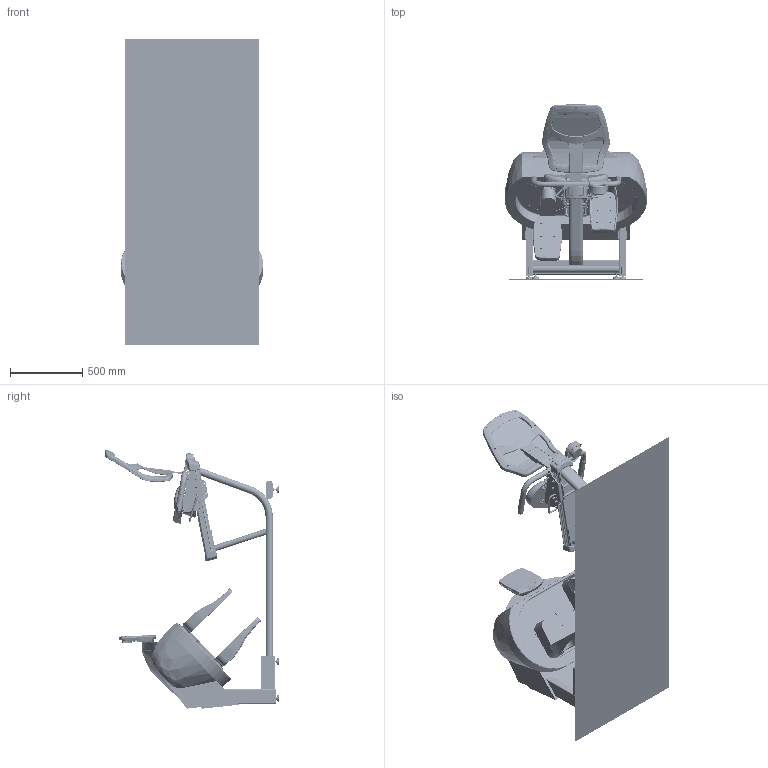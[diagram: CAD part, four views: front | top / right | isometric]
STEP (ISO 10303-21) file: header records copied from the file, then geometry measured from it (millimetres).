
FILE_DESCRIPTION (( 'STEP AP214' ), '1' );
FILE_NAME ('MR04_RECUMBANT_03-06-2015_A.STEP', '2015-03-06T13:50:23', ( 'Andrew_Grove' ), ( 'Microsoft' ), 'SwSTEP 2.0', 'SolidWorks 2014', '' );
FILE_SCHEMA (( 'AUTOMOTIVE_DESIGN' ));
Length unit declared in the file: millimetre
Products named in the file (26): RING_GEAR_SIMPLIFIED_01; R_&_T_SHROUD_01_RECUMBANT_01; Pedal Part_TILTED_01_07-28-2014_CHANGES; MR01-???___; 14mm Nut___; FLOOR_01; M25 x 1 nut with set screws-Wide___; PROTEUS_SEAT_01_VERSION_03; Crank 9-30-2014 Modified for 8mm Bolts_3 o clock (70-50-05) Rev-1; MR04_CONVERTABLE_FRAME_ASSEMBLY_01; MR04_CONVERTABLE_FRAME_01_VERSION_04; SIMPLIFIED_JACK_SHAFT_01; GENERATOR_ASSEMBLY_02; MR04_RECUMBANT_03-06-2015_A; FB33D001_GENERATOR; GENERATOR_BRACKET_02; CRANK_ASSEMBLY_SIMPLIFIED_01; T_&_R_CRANK_COVER_01; MAIN_GEAR_SIMPLIFIED_01; Double D Washer; Spindle 9-29-2014; PEDAL_SHAFT_GEAR_SIMPLIFIED_01; circlip for center bearing_Circlip DIN 471 - 20 x 1.2; CRANK_CENTER_GEAR_SIMPLIFIED_01; M25 x 1 nut with set screws___; PEDAL_ASSEMBLY_SIMPLIFIED_01
Assembly tree (26 placements, depth 5):
  MR04_RECUMBANT_03-06-2015_A
    MR04_CONVERTABLE_FRAME_ASSEMBLY_01
      MR04_CONVERTABLE_FRAME_01_VERSION_04
      CRANK_ASSEMBLY_SIMPLIFIED_01  x2
        Crank 9-30-2014 Modified for 8mm Bolts_3 o clock (70-50-05) Rev-1
        M25 x 1 nut with set screws-Wide___
        14mm Nut___
        PEDAL_ASSEMBLY_SIMPLIFIED_01
          Pedal Part_TILTED_01_07-28-2014_CHANGES
          RING_GEAR_SIMPLIFIED_01
        M25 x 1 nut with set screws___
        CRANK_CENTER_GEAR_SIMPLIFIED_01
        circlip for center bearing_Circlip DIN 471 - 20 x 1.2
        PEDAL_SHAFT_GEAR_SIMPLIFIED_01
        Spindle 9-29-2014
        Double D Washer
        MAIN_GEAR_SIMPLIFIED_01
        T_&_R_CRANK_COVER_01
      GENERATOR_ASSEMBLY_02
        GENERATOR_BRACKET_02
        FB33D001_GENERATOR
      SIMPLIFIED_JACK_SHAFT_01
    PROTEUS_SEAT_01_VERSION_03
    FLOOR_01
    MR01-???___
    R_&_T_SHROUD_01_RECUMBANT_01
Bounding box: 980.61 x 1206.54 x 2118.3 mm (x, y, z)
Volume: 12688198.3 mm3; surface area: 12504645.3 mm2
Topology: 57 solids, 324 shells, 7070 faces, 20752 edges, 14112 vertices
Faces by surface type: plane 2049, bspline 1952, cylinder 1825, cone 830, torus 376, sphere 38
Entity records: 433538 total; most frequent: CARTESIAN_POINT 282057, ORIENTED_EDGE 30467, DIRECTION 22482, EDGE_CURVE 17093, VERTEX_POINT 11863, AXIS2_PLACEMENT_3D 8081, B_SPLINE_CURVE_WITH_KNOTS 6503, EDGE_LOOP 6342
